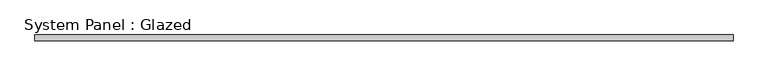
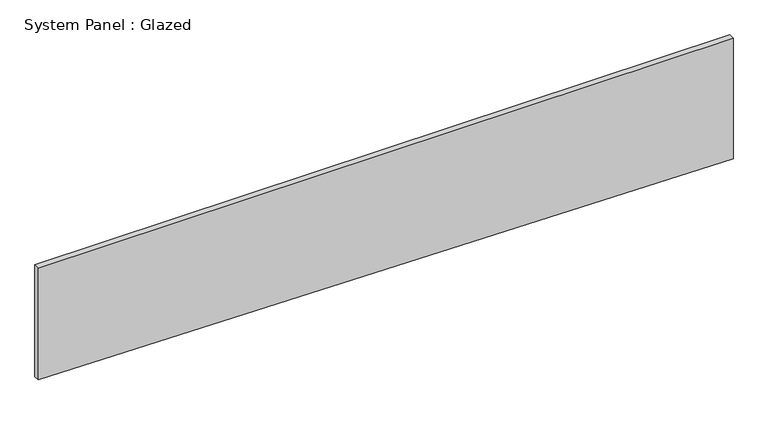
"""IFC4 building model written with IfcOpenShell, lengths in millimetres: plate geometry, System Panel : Glazed."""

from ifc_helpers import new_model, si_unit, frame, origin, place, context, project, spatial, polyline, outline, extrude, source, transform, mapped, element, save


def system_panel_glazed_95655f7c(model_context):
    return source(origin(), model_context, "Body", "SweptSolid", [
        extrude(outline(polyline([(40.7558127, -1504.95), (0.0, 1504.95), (551.6963497, 1504.95), (551.6963497, -1504.95), (40.7558127, -1504.95)])), frame((0.0, 19.05, 0.0), z_axis=(0.0, 1.0, 0.0), x_axis=(0.0, 0.0, 1.0)), (0.0, 0.0, 1.0), 25.4),
    ])


if __name__ == "__main__":
    model = new_model("IFC4")
    model_context = context("Model", 3, world=origin())
    ifc_project = project(units=[si_unit("LENGTHUNIT", "METRE", prefix="MILLI")], contexts=[model_context])
    site = spatial("IfcSite", under=ifc_project)
    building = spatial("IfcBuilding", under=site)
    placement = place(None, origin())
    system_panel_glazed_shape = system_panel_glazed_95655f7c(model_context)
    element("IfcPlate", 1, ObjectType="System Panel : Glazed", at=placement, inside=building, context=model_context, shape_type="MappedRepresentation", body=[
        mapped(system_panel_glazed_shape, transform((0.0, 0.0, 0.0), x_axis=(1.0, 0.0, 0.0), y_axis=(0.0, 1.0, 0.0), z_axis=(0.0, 0.0, 1.0))),
    ])
    save(model, "model.ifc")
